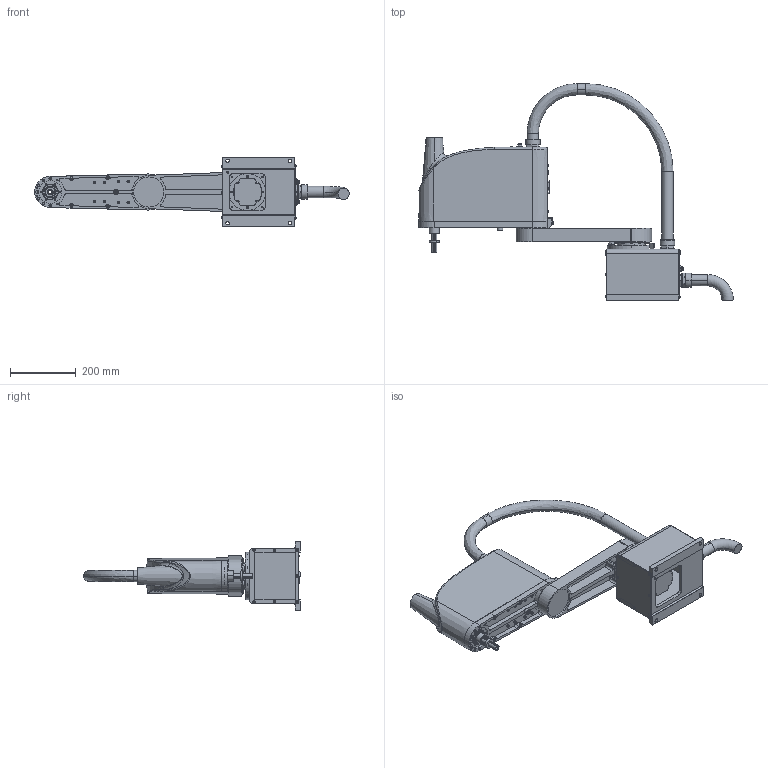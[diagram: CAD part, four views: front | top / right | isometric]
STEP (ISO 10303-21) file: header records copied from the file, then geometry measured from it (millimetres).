
FILE_DESCRIPTION (( 'STEP AP203' ), '1' );
FILE_NAME ('AR6215-E_外发.STEP', '2019-12-16T04:00:54', ( '微软用户' ), ( '微软中国' ), 'SwSTEP 2.0', 'SolidWorks 2018', '' );
FILE_SCHEMA (( 'CONFIG_CONTROL_DESIGN' ));
Length unit declared in the file: millimetre
Products named in the file (6): AR6215-E_Z+R; AR6215-援盄奪; AR6215-E_X; AR6215-E_Y; AR6215-E_俋楷; AR6215-E_菁釱
Assembly tree (5 placements, depth 2):
  AR6215-E_俋楷
    AR6215-E_菁釱
    AR6215-E_X
    AR6215-E_Y
    AR6215-E_Z+R
    AR6215-援盄奪
Bounding box: 958.25 x 660.27 x 210 mm (x, y, z)
Surface area: 1136899.3 mm2 (no closed solid volume)
Topology: 0 solids, 262 shells, 2256 faces, 6674 edges, 4651 vertices
Faces by surface type: plane 1043, cylinder 808, bspline 199, cone 178, torus 27, sphere 1
Entity records: 109746 total; most frequent: CARTESIAN_POINT 50815, DIRECTION 11979, ORIENTED_EDGE 10772, EDGE_CURVE 6600, VERTEX_POINT 4651, AXIS2_PLACEMENT_3D 4259, LINE 3461, VECTOR 3461
